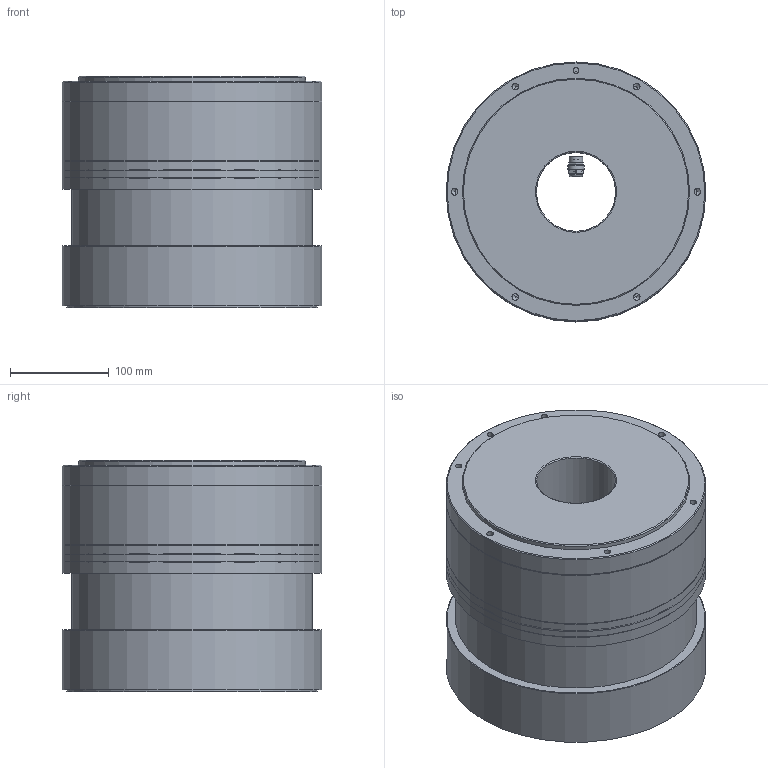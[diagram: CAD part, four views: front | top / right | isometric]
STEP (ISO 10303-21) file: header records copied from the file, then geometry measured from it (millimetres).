
FILE_DESCRIPTION( ( 'STEP AP203' ), '1' );
FILE_NAME( 'E:/LD 系列力矩电机/LD4 系列力矩电机/LD4-263 力矩电机（交叉滚子轴承）2016-07-19/LD4-263-a 力矩电机（3D图档）/LD4-263113 力矩电机（3D）.stp', '2017-03-13T01:53:07', ( ' ' ), ( ' ' ), 'XStep 1.0', ' ', ' ' );
FILE_SCHEMA( ( 'CONFIG_CONTROL_DESIGN) ( )' ) );
Length unit declared in the file: metre
Products named in the file (6): Assem1; 1; 2; 3; 4; 5
Bounding box: 263 x 263 x 234.25 mm (x, y, z)
Volume: 10215602.2 mm3; surface area: 903744 mm2
Topology: 11 solids, 27 shells, 422 faces, 1006 edges, 667 vertices
Faces by surface type: plane 199, cylinder 151, cone 65, torus 7
Full cylindrical faces by diameter (mm): 2.013 x24, 2.459 x4, 6 x5, 6.647 x24, 8 x2, 12 x3, 13 x6, 14 x4, 15 x5, 17 x2, 80 x4, 186 x2, 200 x4, 230 x2, 244 x4, 250 x2, 254 x2, 256 x2, 263 x6
Entity records: 5160 total; most frequent: CARTESIAN_POINT 998, DIRECTION 868, ORIENTED_EDGE 620, AXIS2_PLACEMENT_3D 382, EDGE_CURVE 310, EDGE_LOOP 296, VERTEX_POINT 256, FACE_OUTER_BOUND 247
